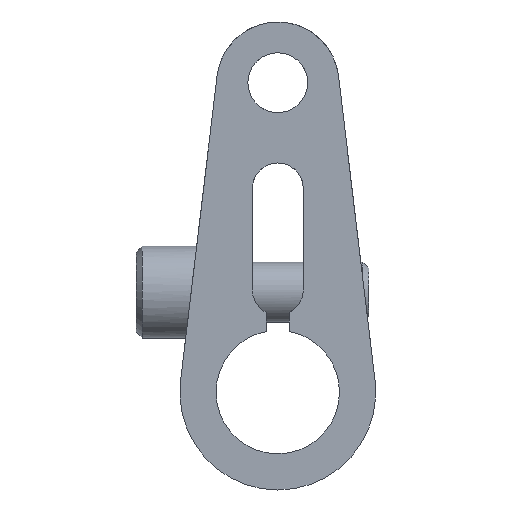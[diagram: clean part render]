
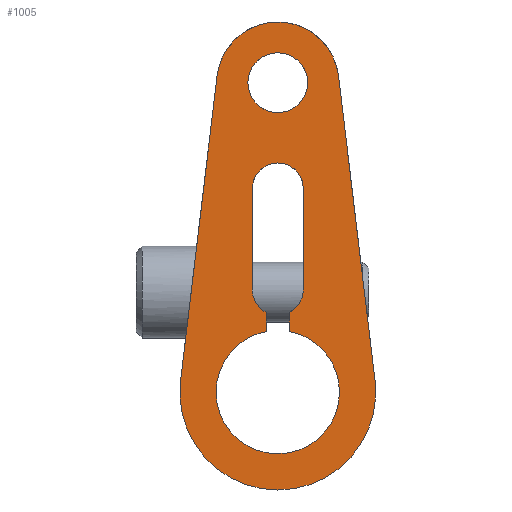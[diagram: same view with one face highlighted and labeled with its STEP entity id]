
A CAD part, front view. The second image highlights one B-rep face of the part: STEP entity #1005.
In plain terms, the highlighted planar face has unit normal (0, -1, 0).
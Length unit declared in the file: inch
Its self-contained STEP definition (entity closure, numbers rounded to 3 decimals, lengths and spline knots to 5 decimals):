
#18=DIRECTION('',(-0.119,0.,0.993));
#19=VECTOR('',#18,1.56657);
#20=CARTESIAN_POINT('',(0.49645,0.,0.05951));
#21=LINE('',#20,#19);
#22=CARTESIAN_POINT('',(0.,0.,0.));
#23=DIRECTION('',(0.,-1.,0.));
#24=DIRECTION('',(0.,0.,-1.));
#25=AXIS2_PLACEMENT_3D('',#22,#23,#24);
#27=CARTESIAN_POINT('',(0.,0.,0.));
#28=DIRECTION('',(0.,-1.,0.));
#29=DIRECTION('',(-0.993,0.,0.119));
#30=AXIS2_PLACEMENT_3D('',#27,#28,#29);
#32=DIRECTION('',(-0.119,0.,-0.993));
#33=VECTOR('',#32,1.56657);
#34=CARTESIAN_POINT('',(-0.31,0.,1.61494));
#35=LINE('',#34,#33);
#36=CARTESIAN_POINT('',(0.,0.,1.57778));
#37=DIRECTION('',(0.,-1.,0.));
#38=DIRECTION('',(0.,0.,1.));
#39=AXIS2_PLACEMENT_3D('',#36,#37,#38);
#41=CARTESIAN_POINT('',(0.,0.,1.57778));
#42=DIRECTION('',(0.,-1.,0.));
#43=DIRECTION('',(0.993,0.,0.119));
#44=AXIS2_PLACEMENT_3D('',#41,#42,#43);
#46=CARTESIAN_POINT('',(0.,0.,1.58));
#47=DIRECTION('',(0.,1.,0.));
#48=DIRECTION('',(0.,0.,-1.));
#49=AXIS2_PLACEMENT_3D('',#46,#47,#48);
#51=CARTESIAN_POINT('',(0.,0.,1.58));
#52=DIRECTION('',(0.,1.,0.));
#53=DIRECTION('',(0.,0.,1.));
#54=AXIS2_PLACEMENT_3D('',#51,#52,#53);
#56=DIRECTION('',(0.,0.,-1.));
#57=VECTOR('',#56,0.09661);
#58=CARTESIAN_POINT('',(0.059,0.,0.40616));
#59=LINE('',#58,#57);
#60=CARTESIAN_POINT('',(0.,0.,0.522));
#61=DIRECTION('',(0.,1.,0.));
#62=DIRECTION('',(1.,0.,0.));
#63=AXIS2_PLACEMENT_3D('',#60,#61,#62);
#65=DIRECTION('',(0.,0.,-1.));
#66=VECTOR('',#65,0.518);
#67=CARTESIAN_POINT('',(0.13,0.,1.04));
#68=LINE('',#67,#66);
#69=CARTESIAN_POINT('',(0.,0.,1.04));
#70=DIRECTION('',(0.,1.,0.));
#71=DIRECTION('',(0.,0.,1.));
#72=AXIS2_PLACEMENT_3D('',#69,#70,#71);
#74=CARTESIAN_POINT('',(0.,0.,1.04));
#75=DIRECTION('',(0.,1.,0.));
#76=DIRECTION('',(-1.,0.,0.));
#77=AXIS2_PLACEMENT_3D('',#74,#75,#76);
#79=DIRECTION('',(0.,0.,1.));
#80=VECTOR('',#79,0.518);
#81=CARTESIAN_POINT('',(-0.13,0.,0.522));
#82=LINE('',#81,#80);
#83=CARTESIAN_POINT('',(0.,0.,0.522));
#84=DIRECTION('',(0.,1.,0.));
#85=DIRECTION('',(-0.454,0.,-0.891));
#86=AXIS2_PLACEMENT_3D('',#83,#84,#85);
#88=DIRECTION('',(0.,0.,1.));
#89=VECTOR('',#88,0.09661);
#90=CARTESIAN_POINT('',(-0.059,0.,0.30955));
#91=LINE('',#90,#89);
#264=CARTESIAN_POINT('',(0.,0.,0.));
#265=DIRECTION('',(0.,1.,0.));
#266=DIRECTION('',(0.187,0.,0.982));
#267=AXIS2_PLACEMENT_3D('',#264,#265,#266);
#791=CARTESIAN_POINT('',(0.13,0.,1.04));
#793=VERTEX_POINT('',#791);
#795=CARTESIAN_POINT('',(0.,0.,1.733));
#797=VERTEX_POINT('',#795);
#838=CARTESIAN_POINT('',(0.,0.,1.17));
#839=VERTEX_POINT('',#838);
#845=CARTESIAN_POINT('',(0.,0.,1.427));
#847=VERTEX_POINT('',#845);
#848=CARTESIAN_POINT('',(0.,0.,1.89));
#849=CARTESIAN_POINT('',(-0.31,0.,1.61494));
#850=VERTEX_POINT('',#848);
#851=VERTEX_POINT('',#849);
#911=CARTESIAN_POINT('',(-0.49645,0.,0.05951));
#912=VERTEX_POINT('',#911);
#913=CARTESIAN_POINT('',(0.31,0.,1.61494));
#914=VERTEX_POINT('',#913);
#915=CARTESIAN_POINT('',(0.13,0.,0.522));
#916=CARTESIAN_POINT('',(0.059,0.,0.40616));
#917=VERTEX_POINT('',#915);
#918=VERTEX_POINT('',#916);
#919=CARTESIAN_POINT('',(-0.059,0.,0.40616));
#920=VERTEX_POINT('',#919);
#921=CARTESIAN_POINT('',(0.,0.,-0.5));
#922=CARTESIAN_POINT('',(0.49645,0.,0.05951));
#923=VERTEX_POINT('',#921);
#924=VERTEX_POINT('',#922);
#925=CARTESIAN_POINT('',(-0.13,0.,0.522));
#926=CARTESIAN_POINT('',(-0.13,0.,1.04));
#927=VERTEX_POINT('',#925);
#928=VERTEX_POINT('',#926);
#933=CARTESIAN_POINT('',(0.059,0.,0.30955));
#935=VERTEX_POINT('',#933);
#941=CARTESIAN_POINT('',(-0.059,0.,0.30955));
#943=VERTEX_POINT('',#941);
#961=CARTESIAN_POINT('',(0.52004,0.,1.9378));
#962=DIRECTION('',(0.,1.,0.));
#963=DIRECTION('',(0.,0.,-1.));
#964=AXIS2_PLACEMENT_3D('',#961,#962,#963);
#965=PLANE('',#964);
#967=ORIENTED_EDGE('',*,*,#966,.F.);
#969=ORIENTED_EDGE('',*,*,#968,.F.);
#971=ORIENTED_EDGE('',*,*,#970,.F.);
#973=ORIENTED_EDGE('',*,*,#972,.F.);
#974=ORIENTED_EDGE('',*,*,#950,.F.);
#976=ORIENTED_EDGE('',*,*,#975,.F.);
#977=EDGE_LOOP('',(#967,#969,#971,#973,#974,#976));
#978=FACE_OUTER_BOUND('',#977,.F.);
#980=ORIENTED_EDGE('',*,*,#979,.F.);
#982=ORIENTED_EDGE('',*,*,#981,.F.);
#983=EDGE_LOOP('',(#980,#982));
#984=FACE_BOUND('',#983,.F.);
#986=ORIENTED_EDGE('',*,*,#985,.F.);
#988=ORIENTED_EDGE('',*,*,#987,.F.);
#990=ORIENTED_EDGE('',*,*,#989,.F.);
#992=ORIENTED_EDGE('',*,*,#991,.F.);
#994=ORIENTED_EDGE('',*,*,#993,.F.);
#996=ORIENTED_EDGE('',*,*,#995,.F.);
#998=ORIENTED_EDGE('',*,*,#997,.F.);
#1000=ORIENTED_EDGE('',*,*,#999,.F.);
#1002=ORIENTED_EDGE('',*,*,#1001,.F.);
#1003=EDGE_LOOP('',(#986,#988,#990,#992,#994,#996,#998,#1000,#1002));
#1004=FACE_BOUND('',#1003,.F.);
#1005=ADVANCED_FACE('',(#978,#984,#1004),#965,.F.);
#26=CIRCLE('',#25,0.5);
#31=CIRCLE('',#30,0.5);
#40=CIRCLE('',#39,0.31222);
#45=CIRCLE('',#44,0.31222);
#50=CIRCLE('',#49,0.153);
#55=CIRCLE('',#54,0.153);
#64=CIRCLE('',#63,0.13);
#73=CIRCLE('',#72,0.13);
#78=CIRCLE('',#77,0.13);
#87=CIRCLE('',#86,0.13);
#268=CIRCLE('',#267,0.31513);
#950=EDGE_CURVE('',#850,#851,#40,.T.);
#966=EDGE_CURVE('',#924,#914,#21,.T.);
#968=EDGE_CURVE('',#923,#924,#26,.T.);
#970=EDGE_CURVE('',#912,#923,#31,.T.);
#972=EDGE_CURVE('',#851,#912,#35,.T.);
#975=EDGE_CURVE('',#914,#850,#45,.T.);
#979=EDGE_CURVE('',#847,#797,#50,.T.);
#981=EDGE_CURVE('',#797,#847,#55,.T.);
#985=EDGE_CURVE('',#935,#943,#268,.T.);
#987=EDGE_CURVE('',#918,#935,#59,.T.);
#989=EDGE_CURVE('',#917,#918,#64,.T.);
#991=EDGE_CURVE('',#793,#917,#68,.T.);
#993=EDGE_CURVE('',#839,#793,#73,.T.);
#995=EDGE_CURVE('',#928,#839,#78,.T.);
#997=EDGE_CURVE('',#927,#928,#82,.T.);
#999=EDGE_CURVE('',#920,#927,#87,.T.);
#1001=EDGE_CURVE('',#943,#920,#91,.T.);
